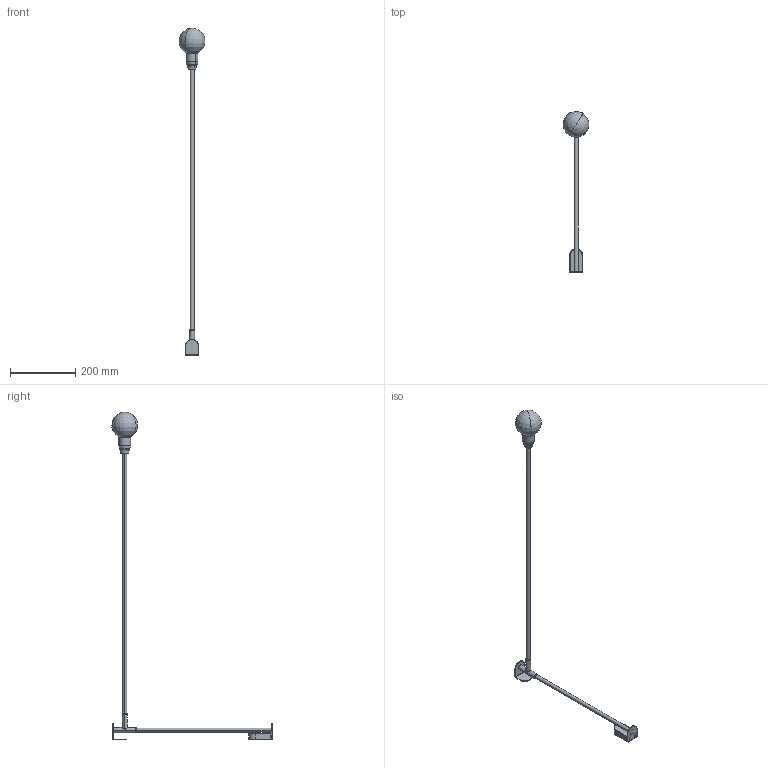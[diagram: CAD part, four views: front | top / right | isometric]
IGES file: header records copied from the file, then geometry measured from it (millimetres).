
Start section: SolidWorks IGES file using analytic representation for surfaces
Global section: file name: C:\Users\tungari.NEMOLIGHTING\Desktop\3D\WALL\3D_POTENCE_PIVOTANTE_MINIIIII\DEF\3D_POTENCE_PIVOTANTE_MINI.IGS; native system: SolidWorks 2016; preprocessor: SolidWorks 2016; author: tungari; date: 180314.160448; units: millimetre
Bounding box: 78.79 x 492.46 x 1007.47 mm (x, y, z)
Surface area: 106528 mm2 (no closed solid volume)
Topology: 0 solids, 0 shells, 128 faces, 1996 edges, 1995 vertices
Faces by surface type: bspline 73, revolution 55
